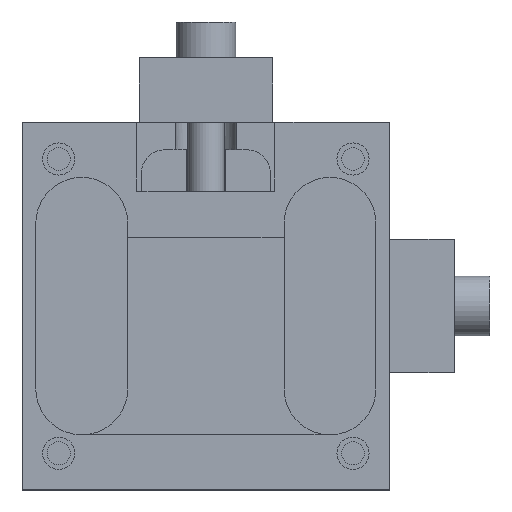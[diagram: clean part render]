
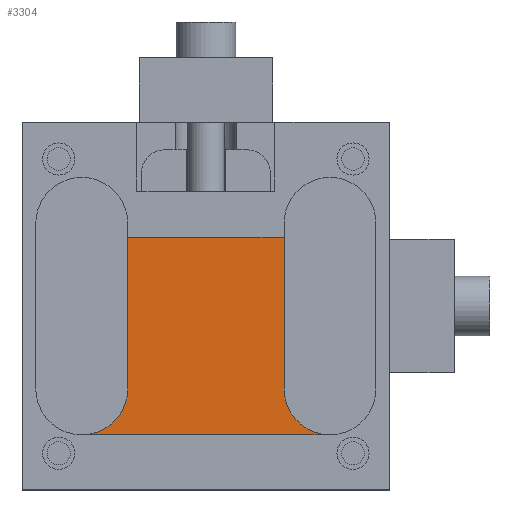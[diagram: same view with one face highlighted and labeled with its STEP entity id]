
A CAD part, front view. The second image highlights one B-rep face of the part: STEP entity #3304.
In plain terms, the highlighted planar face has unit normal (0, -1, 0).
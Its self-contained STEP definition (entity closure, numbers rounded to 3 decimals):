
#150 = AXIS2_PLACEMENT_3D ( 'NONE', #6368, #1463, #5794 ) ;
#511 = CARTESIAN_POINT ( 'NONE',  ( 7.5, 0.1, -11.5 ) ) ;
#684 = LINE ( 'NONE', #7443, #3979 ) ;
#720 = CARTESIAN_POINT ( 'NONE',  ( -9., 0.1, -28.5 ) ) ;
#946 = CIRCLE ( 'NONE', #6462, 5. ) ;
#1463 = DIRECTION ( 'NONE',  ( 0., -1., 0. ) ) ;
#1619 = CARTESIAN_POINT ( 'NONE',  ( -9., 0.1, -11.5 ) ) ;
#1643 = DIRECTION ( 'NONE',  ( 0., 1., 0. ) ) ;
#1684 = AXIS2_PLACEMENT_3D ( 'NONE', #5356, #1643, #5976 ) ;
#1773 = EDGE_CURVE ( 'NONE', #7804, #5592, #4236, .T. ) ;
#1809 = ORIENTED_EDGE ( 'NONE', *, *, #5357, .T. ) ;
#2345 = FACE_OUTER_BOUND ( 'NONE', #5040, .T. ) ;
#2551 = LINE ( 'NONE', #2666, #5840 ) ;
#2642 = DIRECTION ( 'NONE',  ( 0., -1., 0. ) ) ;
#2666 = CARTESIAN_POINT ( 'NONE',  ( -14., 0.1, -33.5 ) ) ;
#2693 = PLANE ( 'NONE',  #150 ) ;
#2763 = VERTEX_POINT ( 'NONE', #4823 ) ;
#2784 = EDGE_CURVE ( 'NONE', #5200, #4519, #7762, .T. ) ;
#2818 = CIRCLE ( 'NONE', #1684, 5. ) ;
#2839 = VECTOR ( 'NONE', #3632, 1000. ) ;
#3064 = ORIENTED_EDGE ( 'NONE', *, *, #3272, .T. ) ;
#3101 = VERTEX_POINT ( 'NONE', #5762 ) ;
#3272 = EDGE_CURVE ( 'NONE', #3101, #2763, #2551, .T. ) ;
#3304 = ADVANCED_FACE ( 'NONE', ( #2345 ), #2693, .T. ) ;
#3632 = DIRECTION ( 'NONE',  ( 1., 0., 0. ) ) ;
#3807 = DIRECTION ( 'NONE',  ( 1., 0., 0. ) ) ;
#3979 = VECTOR ( 'NONE', #4975, 1000. ) ;
#4236 = LINE ( 'NONE', #720, #5869 ) ;
#4519 = VERTEX_POINT ( 'NONE', #511 ) ;
#4823 = CARTESIAN_POINT ( 'NONE',  ( -14., 0.1, -33.5 ) ) ;
#4975 = DIRECTION ( 'NONE',  ( 0., 0., 1. ) ) ;
#4988 = CARTESIAN_POINT ( 'NONE',  ( -9., 0.1, -28.5 ) ) ;
#5011 = EDGE_CURVE ( 'NONE', #2763, #7804, #2818, .T. ) ;
#5040 = EDGE_LOOP ( 'NONE', ( #5739, #7494, #1809, #5253, #6902, #3064 ) ) ;
#5196 = CARTESIAN_POINT ( 'NONE',  ( 7.5, 0.1, -28.5 ) ) ;
#5200 = VERTEX_POINT ( 'NONE', #1619 ) ;
#5253 = ORIENTED_EDGE ( 'NONE', *, *, #2784, .F. ) ;
#5356 = CARTESIAN_POINT ( 'NONE',  ( -9., 0.1, -33.5 ) ) ;
#5357 = EDGE_CURVE ( 'NONE', #5592, #4519, #684, .T. ) ;
#5592 = VERTEX_POINT ( 'NONE', #5196 ) ;
#5739 = ORIENTED_EDGE ( 'NONE', *, *, #5011, .T. ) ;
#5762 = CARTESIAN_POINT ( 'NONE',  ( -14., 0.1, -6.5 ) ) ;
#5794 = DIRECTION ( 'NONE',  ( -1., 0., 0. ) ) ;
#5840 = VECTOR ( 'NONE', #6995, 1000. ) ;
#5869 = VECTOR ( 'NONE', #3807, 1000. ) ;
#5976 = DIRECTION ( 'NONE',  ( -1., 0., 0. ) ) ;
#6147 = EDGE_CURVE ( 'NONE', #3101, #5200, #946, .T. ) ;
#6343 = CARTESIAN_POINT ( 'NONE',  ( -9., 0.1, -6.5 ) ) ;
#6368 = CARTESIAN_POINT ( 'NONE',  ( 7.5, 0.1, -33.5 ) ) ;
#6462 = AXIS2_PLACEMENT_3D ( 'NONE', #6343, #2642, #6975 ) ;
#6902 = ORIENTED_EDGE ( 'NONE', *, *, #6147, .F. ) ;
#6975 = DIRECTION ( 'NONE',  ( -1., 0., 0. ) ) ;
#6995 = DIRECTION ( 'NONE',  ( 0., 0., -1. ) ) ;
#7443 = CARTESIAN_POINT ( 'NONE',  ( 7.5, 0.1, -33.5 ) ) ;
#7494 = ORIENTED_EDGE ( 'NONE', *, *, #1773, .T. ) ;
#7762 = LINE ( 'NONE', #7923, #2839 ) ;
#7804 = VERTEX_POINT ( 'NONE', #4988 ) ;
#7923 = CARTESIAN_POINT ( 'NONE',  ( -9., 0.1, -11.5 ) ) ;
